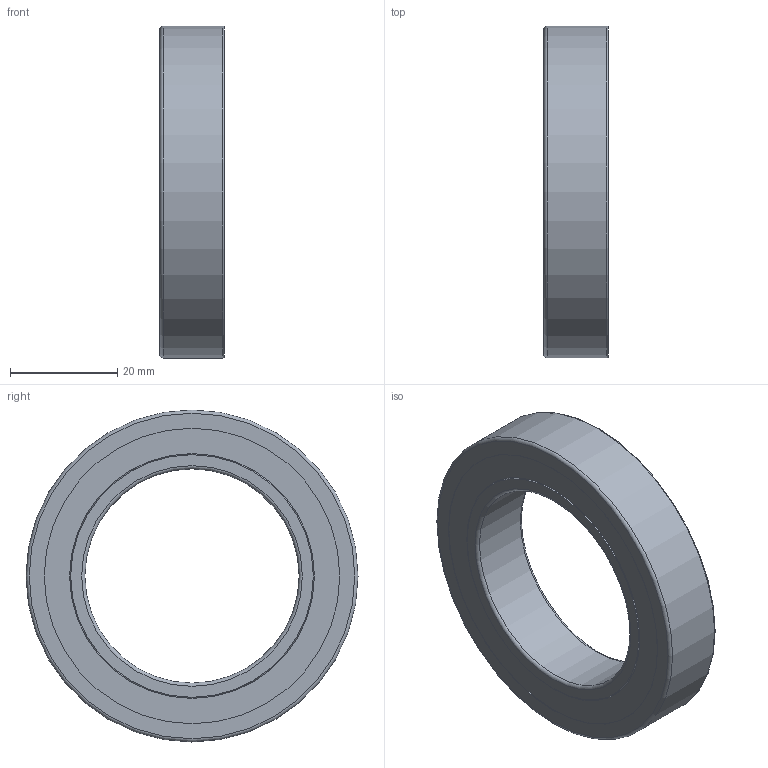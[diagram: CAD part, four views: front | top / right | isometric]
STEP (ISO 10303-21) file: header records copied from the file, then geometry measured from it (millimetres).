
FILE_DESCRIPTION(/* description */ (''),/* implementation_level */ '2;1');
FILE_NAME(/* name */ 'KH_61908_TA.step',/* time_stamp */ '2013-03-07T07:04:39+01:00',/* author */ ('Marian'),/* organization */ ('GMN'),/* preprocessor_version */ 'ST-DEVELOPER v11',/* originating_system */ 'SIEMENS UGS NX 6.0',/* authorisation */ '');
FILE_SCHEMA (('CONFIG_CONTROL_DESIGN'));
Length unit declared in the file: millimetre
Products named in the file (1): KH_61908_TA
Bounding box: 12 x 62 x 62 mm (x, y, z)
Volume: 16836.6 mm3; surface area: 17582.6 mm2
Topology: 30 solids, 30 shells, 82 faces, 206 edges, 134 vertices
Faces by surface type: cylinder 38, sphere 25, plane 12, torus 6, cone 1
Full cylindrical faces by diameter (mm): 4.962 x25, 40 x1, 45.3 x1, 45.7 x1, 46.8 x1, 47.2 x1, 49.662 x1, 52.524 x1, 52.924 x1, 55.2 x2, 56.7 x2, 62 x1
Entity records: 4592 total; most frequent: CARTESIAN_POINT 3122, DIRECTION 230, FACE_BOUND 189, EDGE_LOOP 164, ORIENTED_EDGE 164, AXIS2_PLACEMENT_3D 115, VERTEX_POINT 107, ADVANCED_FACE 82
